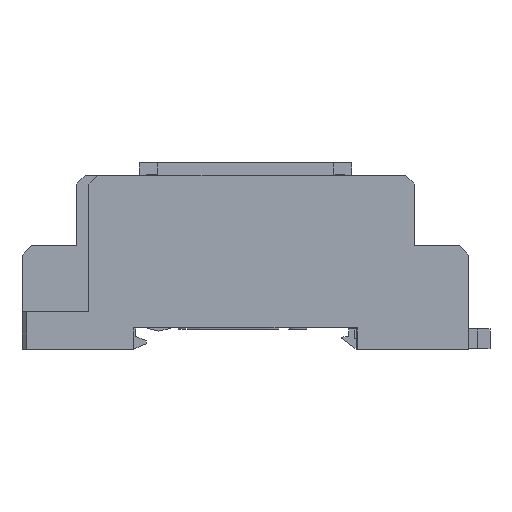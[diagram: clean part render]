
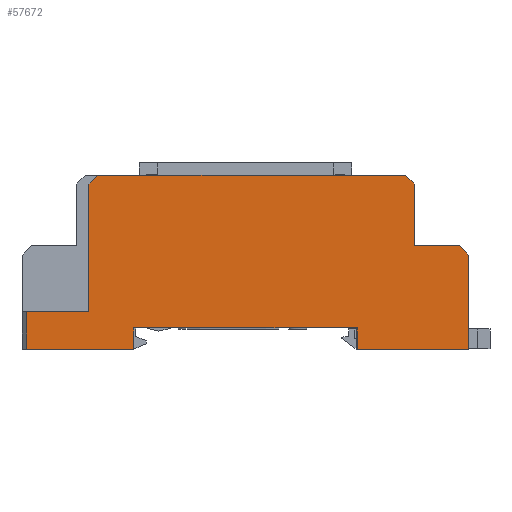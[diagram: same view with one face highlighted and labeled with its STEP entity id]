
A CAD part, left-side view. The second image highlights one B-rep face of the part: STEP entity #57672.
In plain terms, the highlighted planar face has unit normal (-1, 0, 0).
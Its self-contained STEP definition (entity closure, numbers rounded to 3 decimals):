
#332 = CARTESIAN_POINT ( 'NONE',  ( -4.899, -17.753, 3.4 ) ) ;
#372 = VECTOR ( 'NONE', #12499, 1000. ) ;
#420 = EDGE_CURVE ( 'NONE', #68028, #51798, #29044, .T. ) ;
#1028 = LINE ( 'NONE', #70047, #65455 ) ;
#2913 = LINE ( 'NONE', #12619, #33235 ) ;
#3518 = EDGE_CURVE ( 'NONE', #5949, #10985, #17916, .T. ) ;
#4064 = CARTESIAN_POINT ( 'NONE',  ( -4.899, 25.297, -12.785 ) ) ;
#5387 = VERTEX_POINT ( 'NONE', #34918 ) ;
#5700 = VECTOR ( 'NONE', #43624, 1000. ) ;
#5949 = VERTEX_POINT ( 'NONE', #45311 ) ;
#6102 = FACE_OUTER_BOUND ( 'NONE', #43906, .T. ) ;
#6395 = CARTESIAN_POINT ( 'NONE',  ( -4.899, -17.753, 3.4 ) ) ;
#6566 = CARTESIAN_POINT ( 'NONE',  ( -4.899, -25.403, 28. ) ) ;
#7086 = VERTEX_POINT ( 'NONE', #33152 ) ;
#7567 = CARTESIAN_POINT ( 'NONE',  ( -4.899, 18.147, 0. ) ) ;
#7570 = LINE ( 'NONE', #18227, #54024 ) ;
#7693 = ORIENTED_EDGE ( 'NONE', *, *, #55255, .F. ) ;
#7917 = EDGE_CURVE ( 'NONE', #67374, #9695, #44019, .T. ) ;
#9152 = VECTOR ( 'NONE', #23456, 1000. ) ;
#9695 = VERTEX_POINT ( 'NONE', #7567 ) ;
#10208 = DIRECTION ( 'NONE',  ( 0., 0., 1. ) ) ;
#10836 = EDGE_CURVE ( 'NONE', #18007, #56718, #62627, .T. ) ;
#10939 = ORIENTED_EDGE ( 'NONE', *, *, #72526, .T. ) ;
#10985 = VERTEX_POINT ( 'NONE', #49216 ) ;
#12499 = DIRECTION ( 'NONE',  ( 0., 0., -1. ) ) ;
#12535 = VERTEX_POINT ( 'NONE', #32668 ) ;
#12605 = ORIENTED_EDGE ( 'NONE', *, *, #420, .T. ) ;
#12619 = CARTESIAN_POINT ( 'NONE',  ( -4.899, 18.147, 3.4 ) ) ;
#14226 = DIRECTION ( 'NONE',  ( 0., -1., 0. ) ) ;
#14741 = EDGE_CURVE ( 'NONE', #7086, #12535, #1028, .T. ) ;
#14874 = EDGE_CURVE ( 'NONE', #34648, #5387, #27552, .T. ) ;
#15288 = CARTESIAN_POINT ( 'NONE',  ( -4.899, -34.153, 16.6 ) ) ;
#15772 = ORIENTED_EDGE ( 'NONE', *, *, #14874, .F. ) ;
#17164 = DIRECTION ( 'NONE',  ( 0., -1., 0. ) ) ;
#17710 = ORIENTED_EDGE ( 'NONE', *, *, #26841, .T. ) ;
#17916 = LINE ( 'NONE', #31463, #64268 ) ;
#18007 = VERTEX_POINT ( 'NONE', #32842 ) ;
#18227 = CARTESIAN_POINT ( 'NONE',  ( -4.899, 25.297, 26.5 ) ) ;
#18681 = DIRECTION ( 'NONE',  ( 0., 1., 0. ) ) ;
#19764 = CARTESIAN_POINT ( 'NONE',  ( -4.899, -35.653, 16.6 ) ) ;
#23456 = DIRECTION ( 'NONE',  ( 0., 0.707, 0.707 ) ) ;
#24311 = DIRECTION ( 'NONE',  ( 0., 0.707, -0.707 ) ) ;
#26841 = EDGE_CURVE ( 'NONE', #56718, #5387, #75707, .T. ) ;
#26842 = ORIENTED_EDGE ( 'NONE', *, *, #10836, .T. ) ;
#27080 = VECTOR ( 'NONE', #49658, 1000. ) ;
#27552 = LINE ( 'NONE', #41226, #57874 ) ;
#28266 = EDGE_CURVE ( 'NONE', #18007, #51798, #55721, .T. ) ;
#28270 = ORIENTED_EDGE ( 'NONE', *, *, #65449, .F. ) ;
#29044 = LINE ( 'NONE', #77943, #9152 ) ;
#29181 = PLANE ( 'NONE',  #33735 ) ;
#29266 = CARTESIAN_POINT ( 'NONE',  ( -4.899, 35.247, 0. ) ) ;
#30310 = EDGE_CURVE ( 'NONE', #34648, #44726, #7570, .T. ) ;
#30464 = VECTOR ( 'NONE', #78315, 1000. ) ;
#31463 = CARTESIAN_POINT ( 'NONE',  ( -4.899, 35.247, 0. ) ) ;
#31479 = LINE ( 'NONE', #52909, #45686 ) ;
#32668 = CARTESIAN_POINT ( 'NONE',  ( -4.899, 25.297, 6. ) ) ;
#32842 = CARTESIAN_POINT ( 'NONE',  ( -4.899, -26.903, 16.6 ) ) ;
#33152 = CARTESIAN_POINT ( 'NONE',  ( -4.899, 35.247, 6. ) ) ;
#33235 = VECTOR ( 'NONE', #18681, 1000. ) ;
#33735 = AXIS2_PLACEMENT_3D ( 'NONE', #71487, #35236, #77572 ) ;
#33811 = DIRECTION ( 'NONE',  ( 0., -1., 0. ) ) ;
#34593 = DIRECTION ( 'NONE',  ( 0., 0., -1. ) ) ;
#34648 = VERTEX_POINT ( 'NONE', #41130 ) ;
#34918 = CARTESIAN_POINT ( 'NONE',  ( -4.899, -25.503, 27.9 ) ) ;
#35236 = DIRECTION ( 'NONE',  ( 1., 0., 0. ) ) ;
#35985 = LINE ( 'NONE', #37526, #5700 ) ;
#36658 = ORIENTED_EDGE ( 'NONE', *, *, #37399, .F. ) ;
#37399 = EDGE_CURVE ( 'NONE', #51066, #63973, #2913, .T. ) ;
#37457 = CARTESIAN_POINT ( 'NONE',  ( -4.899, -35.653, 30.5 ) ) ;
#37526 = CARTESIAN_POINT ( 'NONE',  ( -4.899, 35.247, 30.5 ) ) ;
#40836 = LINE ( 'NONE', #4064, #71111 ) ;
#41130 = CARTESIAN_POINT ( 'NONE',  ( -4.899, 23.897, 27.9 ) ) ;
#41226 = CARTESIAN_POINT ( 'NONE',  ( -4.899, 16.277, 27.9 ) ) ;
#41515 = VECTOR ( 'NONE', #56045, 1000. ) ;
#43624 = DIRECTION ( 'NONE',  ( 0., 0., -1. ) ) ;
#43906 = EDGE_LOOP ( 'NONE', ( #57118, #26842, #17710, #15772, #70552, #7693, #74452, #55307, #77928, #28270, #36658, #10939, #61709, #71215, #12605 ) ) ;
#44019 = LINE ( 'NONE', #56597, #78127 ) ;
#44726 = VERTEX_POINT ( 'NONE', #74523 ) ;
#45311 = CARTESIAN_POINT ( 'NONE',  ( -4.899, -17.753, 0. ) ) ;
#45686 = VECTOR ( 'NONE', #34593, 1000. ) ;
#48701 = LINE ( 'NONE', #6395, #372 ) ;
#49216 = CARTESIAN_POINT ( 'NONE',  ( -4.899, -35.653, 0. ) ) ;
#49658 = DIRECTION ( 'NONE',  ( 0., 0., -1. ) ) ;
#50791 = CARTESIAN_POINT ( 'NONE',  ( -4.899, -35.653, 15.1 ) ) ;
#51066 = VERTEX_POINT ( 'NONE', #332 ) ;
#51798 = VERTEX_POINT ( 'NONE', #15288 ) ;
#52909 = CARTESIAN_POINT ( 'NONE',  ( -4.899, 18.147, 3.4 ) ) ;
#54024 = VECTOR ( 'NONE', #24311, 1000. ) ;
#55255 = EDGE_CURVE ( 'NONE', #12535, #44726, #40836, .T. ) ;
#55307 = ORIENTED_EDGE ( 'NONE', *, *, #56091, .T. ) ;
#55721 = LINE ( 'NONE', #19764, #41515 ) ;
#56045 = DIRECTION ( 'NONE',  ( 0., -1., 0. ) ) ;
#56091 = EDGE_CURVE ( 'NONE', #7086, #67374, #35985, .T. ) ;
#56597 = CARTESIAN_POINT ( 'NONE',  ( -4.899, 35.247, 0. ) ) ;
#56718 = VERTEX_POINT ( 'NONE', #74698 ) ;
#57118 = ORIENTED_EDGE ( 'NONE', *, *, #28266, .F. ) ;
#57672 = ADVANCED_FACE ( 'NONE', ( #6102 ), #29181, .F. ) ;
#57874 = VECTOR ( 'NONE', #17164, 1000. ) ;
#59249 = CARTESIAN_POINT ( 'NONE',  ( -4.899, 18.147, 3.4 ) ) ;
#59317 = LINE ( 'NONE', #37457, #27080 ) ;
#61664 = DIRECTION ( 'NONE',  ( 0., -1., 0. ) ) ;
#61709 = ORIENTED_EDGE ( 'NONE', *, *, #3518, .T. ) ;
#62627 = LINE ( 'NONE', #71168, #30464 ) ;
#63973 = VERTEX_POINT ( 'NONE', #59249 ) ;
#64268 = VECTOR ( 'NONE', #61664, 1000. ) ;
#65449 = EDGE_CURVE ( 'NONE', #63973, #9695, #31479, .T. ) ;
#65455 = VECTOR ( 'NONE', #33811, 1000. ) ;
#67374 = VERTEX_POINT ( 'NONE', #29266 ) ;
#68028 = VERTEX_POINT ( 'NONE', #50791 ) ;
#70047 = CARTESIAN_POINT ( 'NONE',  ( -4.899, 35.247, 6. ) ) ;
#70552 = ORIENTED_EDGE ( 'NONE', *, *, #30310, .T. ) ;
#71111 = VECTOR ( 'NONE', #10208, 1000. ) ;
#71168 = CARTESIAN_POINT ( 'NONE',  ( -4.899, -26.903, -18.519 ) ) ;
#71215 = ORIENTED_EDGE ( 'NONE', *, *, #76179, .F. ) ;
#71487 = CARTESIAN_POINT ( 'NONE',  ( -4.899, 35.247, 30.5 ) ) ;
#72526 = EDGE_CURVE ( 'NONE', #51066, #5949, #48701, .T. ) ;
#72954 = DIRECTION ( 'NONE',  ( 0., 0.707, 0.707 ) ) ;
#73826 = VECTOR ( 'NONE', #72954, 1000. ) ;
#74452 = ORIENTED_EDGE ( 'NONE', *, *, #14741, .F. ) ;
#74523 = CARTESIAN_POINT ( 'NONE',  ( -4.899, 25.297, 26.5 ) ) ;
#74698 = CARTESIAN_POINT ( 'NONE',  ( -4.899, -26.903, 26.5 ) ) ;
#75707 = LINE ( 'NONE', #6566, #73826 ) ;
#76179 = EDGE_CURVE ( 'NONE', #68028, #10985, #59317, .T. ) ;
#77572 = DIRECTION ( 'NONE',  ( 0., 1., 0. ) ) ;
#77928 = ORIENTED_EDGE ( 'NONE', *, *, #7917, .T. ) ;
#77943 = CARTESIAN_POINT ( 'NONE',  ( -4.899, -34.153, 16.6 ) ) ;
#78127 = VECTOR ( 'NONE', #14226, 1000. ) ;
#78315 = DIRECTION ( 'NONE',  ( 0., 0., 1. ) ) ;
